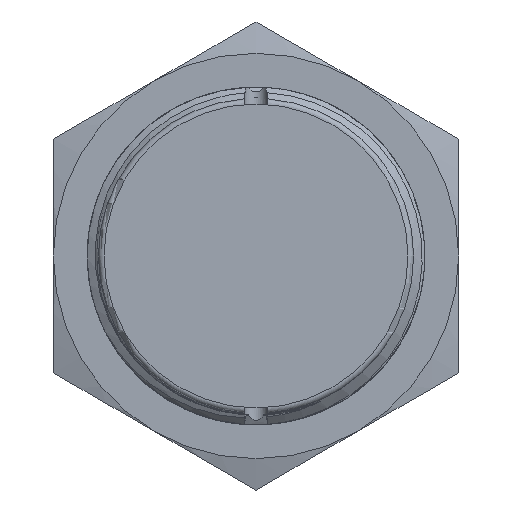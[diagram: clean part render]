
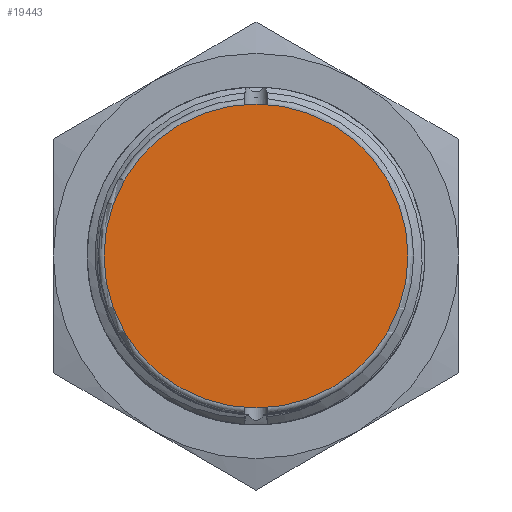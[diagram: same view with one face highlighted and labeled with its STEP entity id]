
A CAD part, left-side view. The second image highlights one B-rep face of the part: STEP entity #19443.
In plain terms, the highlighted planar face has unit normal (-1, 0, 0).
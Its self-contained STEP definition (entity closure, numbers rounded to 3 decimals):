
#8283=CARTESIAN_POINT('',(0.,0.,0.));
#8284=DIRECTION('',(-1.,0.,0.));
#8285=DIRECTION('',(0.,0.,-1.));
#8286=AXIS2_PLACEMENT_3D('',#8283,#8284,#8285);
#8296=CARTESIAN_POINT('',(0.,0.,13.5));
#8373=CARTESIAN_POINT('',(0.,0.,0.));
#8374=DIRECTION('',(-1.,0.,0.));
#8375=DIRECTION('',(0.,0.,1.));
#8376=AXIS2_PLACEMENT_3D('',#8373,#8374,#8375);
#8386=CARTESIAN_POINT('',(0.,0.,-13.5));
#11898=VERTEX_POINT('',#8296);
#11919=VERTEX_POINT('',#8386);
#19434=CARTESIAN_POINT('',(0.,0.,0.));
#19435=DIRECTION('',(-1.,0.,0.));
#19436=DIRECTION('',(0.,1.,0.));
#19437=AXIS2_PLACEMENT_3D('',#19434,#19435,#19436);
#19438=PLANE('',#19437);
#19439=ORIENTED_EDGE('',*,*,#19415,.F.);
#19440=ORIENTED_EDGE('',*,*,#19371,.F.);
#19441=EDGE_LOOP('',(#19439,#19440));
#19442=FACE_OUTER_BOUND('',#19441,.F.);
#8287=CIRCLE('',#8286,13.5);
#8377=CIRCLE('',#8376,13.5);
#19371=EDGE_CURVE('',#11919,#11898,#8287,.T.);
#19415=EDGE_CURVE('',#11898,#11919,#8377,.T.);
#19443=ADVANCED_FACE('',(#19442),#19438,.T.);
